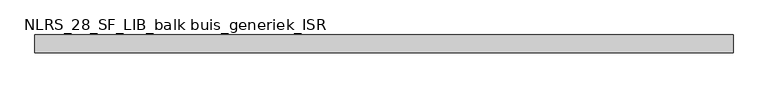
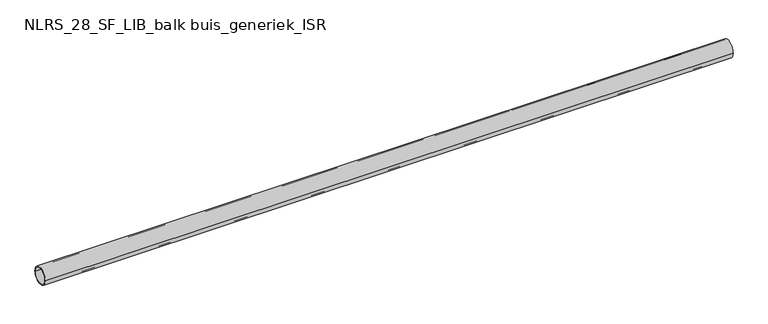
"""IFC4 building model written with IfcOpenShell, lengths in millimetres: beam geometry, NLRS_28_SF_LIB_balk buis_generiek_ISR : ø139.7x8."""

from ifc_helpers import new_model, si_unit, point, frame, origin, origin_2d, place, context, project, spatial, circle_curve, trimmed, segment, composite_curve, outline, extrude, source, transform, mapped, element, save


def nlrs_28_sf_lib_balk_buis_generiek_isr_847ffcc4(model_context):
    return source(origin(), model_context, "Body", "SweptSolid", [
        extrude(outline(composite_curve([segment(trimmed(circle_curve(origin_2d(), 69.85), [point((-69.85, 0.0))], [point((69.85, 0.0))], False, "CARTESIAN"), True, "CONTINUOUS"), segment(trimmed(circle_curve(origin_2d(), 69.85), [point((69.85, 0.0))], [point((-69.85, 0.0))], False, "CARTESIAN"), True, "CONTINUOUS")], self_intersect=False), holes=[composite_curve([segment(trimmed(circle_curve(origin_2d(), 61.85), [point((61.85, 0.0))], [point((-61.85, 0.0))], True, "CARTESIAN"), True, "CONTINUOUS"), segment(trimmed(circle_curve(origin_2d(), 61.85), [point((-61.85, 0.0))], [point((61.85, 0.0))], True, "CARTESIAN"), True, "CONTINUOUS")], self_intersect=False)]), frame((-2630.0, 0.0, 0.0), z_axis=(1.0, 0.0, 0.0), x_axis=(0.0, 1.0, 0.0)), (0.0, 0.0, 1.0), 5481.0639757),
    ])


if __name__ == "__main__":
    model = new_model("IFC4")
    model_context = context("Model", 3, world=origin())
    ifc_project = project(units=[si_unit("LENGTHUNIT", "METRE", prefix="MILLI")], contexts=[model_context])
    site = spatial("IfcSite", under=ifc_project)
    building = spatial("IfcBuilding", under=site)
    placement = place(None, origin())
    nlrs_28_sf_lib_balk_buis_generiek_isr_shape = nlrs_28_sf_lib_balk_buis_generiek_isr_847ffcc4(model_context)
    element("IfcBeam", 1, ObjectType="NLRS_28_SF_LIB_balk buis_generiek_ISR : ø139.7x8", at=placement, inside=building, context=model_context, shape_type="MappedRepresentation", body=[
        mapped(nlrs_28_sf_lib_balk_buis_generiek_isr_shape, transform((0.0, 0.0, 0.0), x_axis=(1.0, 0.0, 0.0), y_axis=(0.0, 1.0, 0.0), z_axis=(0.0, 0.0, 1.0))),
    ])
    save(model, "model.ifc")
